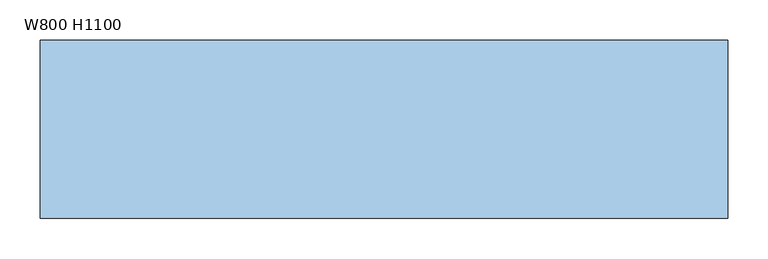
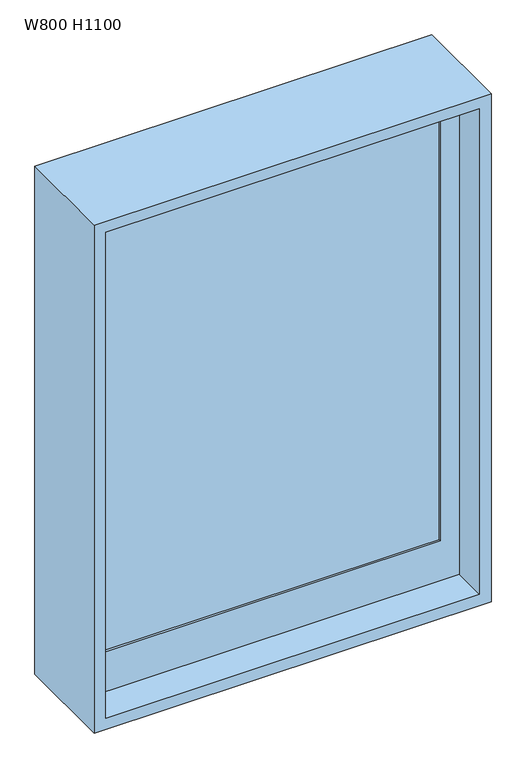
"""IFC4 building model written with IfcOpenShell, lengths in millimetres: window geometry, すべり出し窓 : W800 H1100."""

from ifc_helpers import new_model, si_unit, frame, origin, place, context, project, spatial, polyline, outline, extrude, source, transform, mapped, element, save


def w800_h1100_2b598eca(model_context):
    return source(origin(), model_context, "Body", "SweptSolid", [
        extrude(outline(polyline([(-285.0, -30.0), (-285.0, -25.0), (435.0, -25.0), (435.0, -30.0), (-285.0, -30.0)])), frame((0.0, 0.0, 990.0), z_axis=(0.0, 0.0, 1.0), x_axis=(1.0, 0.0, 0.0)), (0.0, 0.0, 1.0), 970.0),
        extrude(outline(polyline([(2000.0, 475.0), (2000.0, -325.0), (900.0, -325.0), (900.0, 475.0), (2000.0, 475.0)]), holes=[polyline([(1960.0, 435.0), (990.0, 435.0), (990.0, -285.0), (1960.0, -285.0), (1960.0, 435.0)])]), frame((0.0, -35.0, 0.0), z_axis=(0.0, 1.0, 0.0), x_axis=(0.0, 0.0, 1.0)), (0.0, 0.0, 1.0), 30.0),
        extrude(outline(polyline([(875.0, 500.0), (2025.0, 500.0), (2025.0, -350.0), (875.0, -350.0), (875.0, 500.0)]), holes=[polyline([(2000.0, 475.0), (900.0, 475.0), (900.0, -325.0), (2000.0, -325.0), (2000.0, 475.0)])]), frame((0.0, -110.0, 0.0), z_axis=(0.0, 1.0, 0.0), x_axis=(0.0, 0.0, 1.0)), (0.0, 0.0, 1.0), 220.0),
    ])


if __name__ == "__main__":
    model = new_model("IFC4")
    model_context = context("Model", 3, world=origin())
    ifc_project = project(units=[si_unit("LENGTHUNIT", "METRE", prefix="MILLI")], contexts=[model_context])
    site = spatial("IfcSite", under=ifc_project)
    building = spatial("IfcBuilding", under=site)
    placement = place(None, origin())
    w800_h1100_shape = w800_h1100_2b598eca(model_context)
    element("IfcWindow", 1, ObjectType="すべり出し窓 : W800 H1100", at=placement, inside=building, context=model_context, shape_type="MappedRepresentation", body=[
        mapped(w800_h1100_shape, transform((0.0, 0.0, 0.0), x_axis=(1.0, 0.0, 0.0), y_axis=(0.0, 1.0, 0.0), z_axis=(0.0, 0.0, 1.0))),
    ])
    save(model, "model.ifc")
